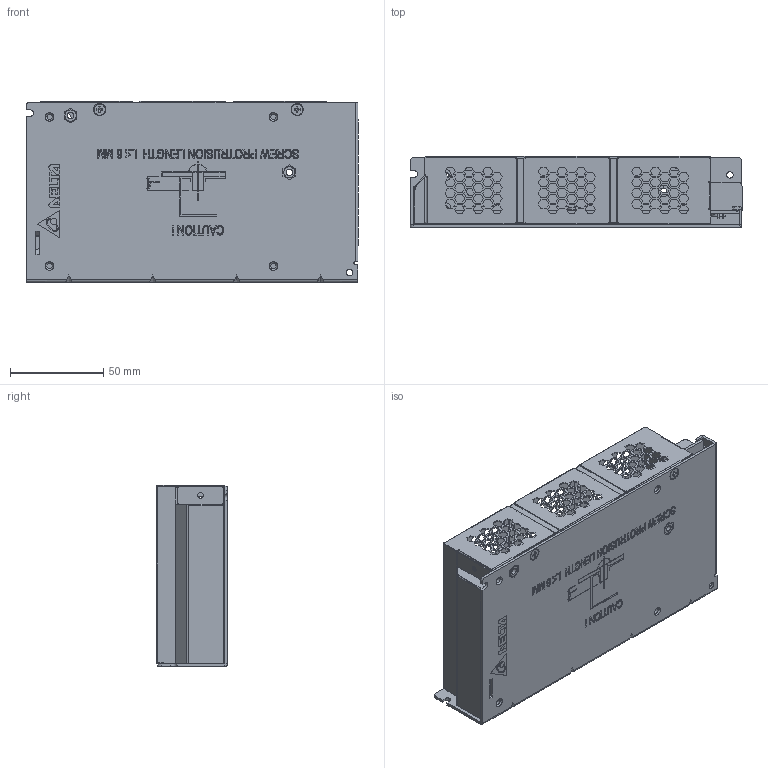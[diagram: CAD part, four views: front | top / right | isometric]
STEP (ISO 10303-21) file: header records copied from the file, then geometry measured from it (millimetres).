
FILE_DESCRIPTION((''),'2;1');
FILE_NAME('PMC-DSPV100W1A_ASM','2012-04-20T',('Manop.Pr'),(''),'PRO/ENGINEER BY PARAMETRIC TECHNOLOGY CORPORATION, 2010180','PRO/ENGINEER BY PARAMETRIC TECHNOLOGY CORPORATION, 2010180','');
FILE_SCHEMA(('CONFIG_CONTROL_DESIGN','SHAPE_APPEARANCE_LAYERS_GROUPS'));
Products named in the file (17): 331606700001; 331606700001_A_STUD; 331606700001_ASM; 2958039907_PWB; ASSY_PWB_ASM; 307049757W_A_BODY; 307049757W_A_SCREW; 307049757W_ASM; EE_LED350; EE_VR550; ASSY_PWB_MAIN_ASM; 331606170101; 326352070001; 3268211200; 3100001000; 3100000400; PMC-DSPV100W1A_ASM
Assembly tree (26 placements, depth 4):
  PMC-DSPV100W1A_ASM
    331606700001_ASM
      331606700001
      331606700001_A_STUD  x2
    ASSY_PWB_MAIN_ASM
      ASSY_PWB_ASM
        2958039907_PWB
      307049757W_ASM
        307049757W_A_BODY
        307049757W_A_SCREW  x7
      EE_LED350
      EE_VR550
    331606170101
    326352070001
    3268211200
    3100001000
    3100000400  x4
Bounding box: 178 x 38.05 x 97.05 mm (x, y, z)
Volume: 84429 mm3; surface area: 144091.5 mm2
Topology: 22 solids, 22 shells, 6373 faces, 17431 edges, 10885 vertices
Faces by surface type: plane 4783, cylinder 554, extrusion 460, bspline 412, cone 134, torus 28, sphere 2
Entity records: 233133 total; most frequent: CARTESIAN_POINT 42624, ORIENTED_EDGE 30886, DIRECTION 25461, PRESENTATION_STYLE_ASSIGNMENT 15648, EDGE_CURVE 15443, STYLED_ITEM 15355, CURVE_STYLE 15341, VECTOR 13861
